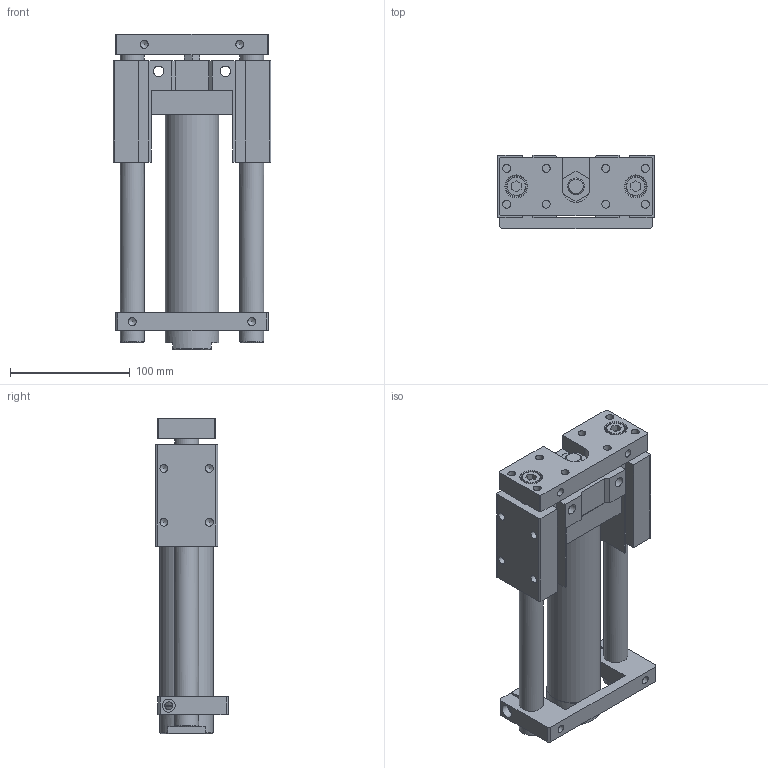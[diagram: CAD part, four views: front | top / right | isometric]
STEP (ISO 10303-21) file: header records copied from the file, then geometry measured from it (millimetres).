
FILE_DESCRIPTION((''),'2;1');
FILE_NAME('I:\3D電子目錄\氣缸\TMB(U)\TMB(U)\TMB(U)40\TMB(U)40x125.stp','2007-10-05T11:43:17',('Administrator'),(''),'Autodesk Inventor 11','Autodesk Inventor 11','');
FILE_SCHEMA(('AUTOMOTIVE_DESIGN { 1 0 10303 214 1 1 1 1 }'));
Length unit declared in the file: millimetre
Products named in the file (1): TMB(U)40
Bounding box: 132 x 61 x 264 mm (x, y, z)
Volume: 930489.4 mm3; surface area: 144785.3 mm2
Topology: 1 solids, 1 shells, 201 faces, 524 edges, 344 vertices
Faces by surface type: plane 118, bspline 41, cylinder 23, cone 17, torus 2
Full cylindrical faces by diameter (mm): 6.5 x2, 6.647 x6, 11 x1, 14 x1, 16 x2, 18 x2, 20 x2, 45 x2
Entity records: 6100 total; most frequent: CARTESIAN_POINT 1571, DIRECTION 870, ORIENTED_EDGE 858, EDGE_CURVE 429, EDGE_LOOP 324, VERTEX_POINT 319, VECTOR 302, LINE 302
